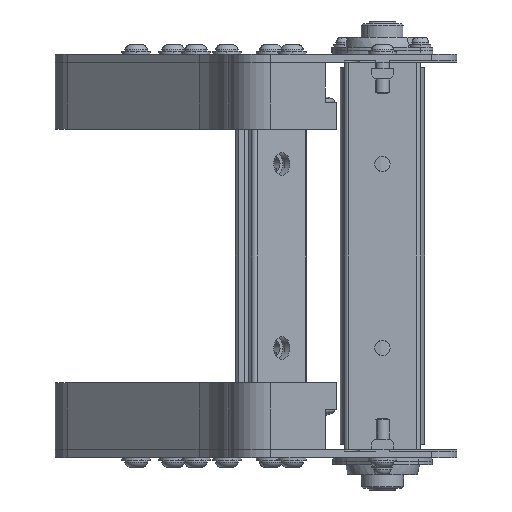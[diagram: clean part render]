
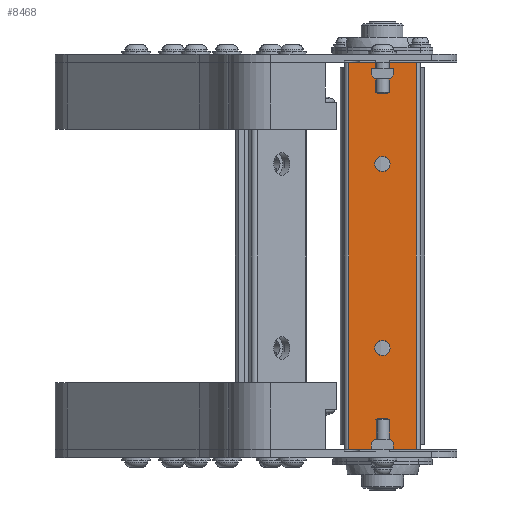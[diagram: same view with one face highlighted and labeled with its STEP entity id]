
A CAD part, left-side view. The second image highlights one B-rep face of the part: STEP entity #8468.
In plain terms, the highlighted planar face has unit normal (-1, 0, 0) as drawn and (0, 0, -1) by its records, which use the part's own axes.
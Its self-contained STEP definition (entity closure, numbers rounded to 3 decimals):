
#276 = CARTESIAN_POINT ( 'NONE',  ( -50., 0., -9.25 ) ) ;
#1031 = AXIS2_PLACEMENT_3D ( 'NONE', #15028, #4947, #1640 ) ;
#1034 = ORIENTED_EDGE ( 'NONE', *, *, #7256, .F. ) ;
#1254 = VERTEX_POINT ( 'NONE', #2356 ) ;
#1294 = ORIENTED_EDGE ( 'NONE', *, *, #11834, .T. ) ;
#1608 = CARTESIAN_POINT ( 'NONE',  ( -114.5, -20., -9.25 ) ) ;
#1640 = DIRECTION ( 'NONE',  ( 1., 0., 0. ) ) ;
#1829 = EDGE_LOOP ( 'NONE', ( #15676, #2879 ) ) ;
#2141 = CARTESIAN_POINT ( 'NONE',  ( 54.5, 0., -9.25 ) ) ;
#2356 = CARTESIAN_POINT ( 'NONE',  ( 114.5, 20., -9.25 ) ) ;
#2415 = VECTOR ( 'NONE', #10253, 1000. ) ;
#2879 = ORIENTED_EDGE ( 'NONE', *, *, #17267, .T. ) ;
#3030 = LINE ( 'NONE', #9825, #12491 ) ;
#3397 = DIRECTION ( 'NONE',  ( 0., 0., 1. ) ) ;
#3800 = VECTOR ( 'NONE', #11071, 1000. ) ;
#3868 = AXIS2_PLACEMENT_3D ( 'NONE', #7134, #4221, #20955 ) ;
#3927 = ORIENTED_EDGE ( 'NONE', *, *, #5230, .F. ) ;
#4221 = DIRECTION ( 'NONE',  ( 0., 0., 1. ) ) ;
#4233 = CARTESIAN_POINT ( 'NONE',  ( 114.5, -20., -9.25 ) ) ;
#4561 = VECTOR ( 'NONE', #12305, 1000. ) ;
#4947 = DIRECTION ( 'NONE',  ( 0., 0., 1. ) ) ;
#5230 = EDGE_CURVE ( 'NONE', #1254, #11972, #3030, .T. ) ;
#5546 = CARTESIAN_POINT ( 'NONE',  ( 114.5, 20., -9.25 ) ) ;
#6001 = VERTEX_POINT ( 'NONE', #1608 ) ;
#6253 = DIRECTION ( 'NONE',  ( 1., 0., 0. ) ) ;
#7134 = CARTESIAN_POINT ( 'NONE',  ( -54.5, 0., -9.25 ) ) ;
#7256 = EDGE_CURVE ( 'NONE', #11252, #1254, #12221, .T. ) ;
#7378 = AXIS2_PLACEMENT_3D ( 'NONE', #18929, #18032, #6253 ) ;
#7648 = FACE_BOUND ( 'NONE', #1829, .T. ) ;
#8468 = ADVANCED_FACE ( 'NONE', ( #15338, #7648, #19270 ), #16880, .F. ) ;
#9093 = VERTEX_POINT ( 'NONE', #18704 ) ;
#9270 = DIRECTION ( 'NONE',  ( 1., 0., 0. ) ) ;
#9825 = CARTESIAN_POINT ( 'NONE',  ( 114.5, 20., -9.25 ) ) ;
#10253 = DIRECTION ( 'NONE',  ( -1., 0., 0. ) ) ;
#10722 = AXIS2_PLACEMENT_3D ( 'NONE', #2141, #3397, #9270 ) ;
#10774 = EDGE_LOOP ( 'NONE', ( #20934, #3927, #1034, #1294 ) ) ;
#11071 = DIRECTION ( 'NONE',  ( 0., 1., 0. ) ) ;
#11133 = CIRCLE ( 'NONE', #3868, 4.5 ) ;
#11249 = EDGE_CURVE ( 'NONE', #6001, #11972, #18444, .T. ) ;
#11252 = VERTEX_POINT ( 'NONE', #17835 ) ;
#11712 = EDGE_CURVE ( 'NONE', #19417, #12078, #19692, .T. ) ;
#11834 = EDGE_CURVE ( 'NONE', #11252, #6001, #18853, .T. ) ;
#11972 = VERTEX_POINT ( 'NONE', #12445 ) ;
#12078 = VERTEX_POINT ( 'NONE', #14755 ) ;
#12221 = LINE ( 'NONE', #18517, #4561 ) ;
#12305 = DIRECTION ( 'NONE',  ( 0., 1., 0. ) ) ;
#12445 = CARTESIAN_POINT ( 'NONE',  ( -114.5, 20., -9.25 ) ) ;
#12491 = VECTOR ( 'NONE', #19888, 1000. ) ;
#12556 = CARTESIAN_POINT ( 'NONE',  ( -114.5, 20., -9.25 ) ) ;
#13039 = AXIS2_PLACEMENT_3D ( 'NONE', #5546, #16442, #15392 ) ;
#13713 = CIRCLE ( 'NONE', #10722, 4.5 ) ;
#14755 = CARTESIAN_POINT ( 'NONE',  ( -59., 0., -9.25 ) ) ;
#15028 = CARTESIAN_POINT ( 'NONE',  ( 54.5, 0., -9.25 ) ) ;
#15338 = FACE_BOUND ( 'NONE', #18313, .T. ) ;
#15392 = DIRECTION ( 'NONE',  ( 0., -1., 0. ) ) ;
#15584 = CIRCLE ( 'NONE', #1031, 4.5 ) ;
#15600 = ORIENTED_EDGE ( 'NONE', *, *, #11712, .T. ) ;
#15676 = ORIENTED_EDGE ( 'NONE', *, *, #16940, .T. ) ;
#16442 = DIRECTION ( 'NONE',  ( 0., 0., 1. ) ) ;
#16880 = PLANE ( 'NONE',  #13039 ) ;
#16940 = EDGE_CURVE ( 'NONE', #20405, #9093, #15584, .T. ) ;
#17047 = ORIENTED_EDGE ( 'NONE', *, *, #18080, .T. ) ;
#17267 = EDGE_CURVE ( 'NONE', #9093, #20405, #13713, .T. ) ;
#17835 = CARTESIAN_POINT ( 'NONE',  ( 114.5, -20., -9.25 ) ) ;
#18032 = DIRECTION ( 'NONE',  ( 0., 0., 1. ) ) ;
#18080 = EDGE_CURVE ( 'NONE', #12078, #19417, #11133, .T. ) ;
#18313 = EDGE_LOOP ( 'NONE', ( #15600, #17047 ) ) ;
#18444 = LINE ( 'NONE', #12556, #3800 ) ;
#18517 = CARTESIAN_POINT ( 'NONE',  ( 114.5, 20., -9.25 ) ) ;
#18704 = CARTESIAN_POINT ( 'NONE',  ( 50., 0., -9.25 ) ) ;
#18853 = LINE ( 'NONE', #4233, #2415 ) ;
#18929 = CARTESIAN_POINT ( 'NONE',  ( -54.5, 0., -9.25 ) ) ;
#19270 = FACE_OUTER_BOUND ( 'NONE', #10774, .T. ) ;
#19417 = VERTEX_POINT ( 'NONE', #276 ) ;
#19692 = CIRCLE ( 'NONE', #7378, 4.5 ) ;
#19888 = DIRECTION ( 'NONE',  ( -1., 0., 0. ) ) ;
#20361 = CARTESIAN_POINT ( 'NONE',  ( 59., 0., -9.25 ) ) ;
#20405 = VERTEX_POINT ( 'NONE', #20361 ) ;
#20934 = ORIENTED_EDGE ( 'NONE', *, *, #11249, .T. ) ;
#20955 = DIRECTION ( 'NONE',  ( 1., 0., 0. ) ) ;
